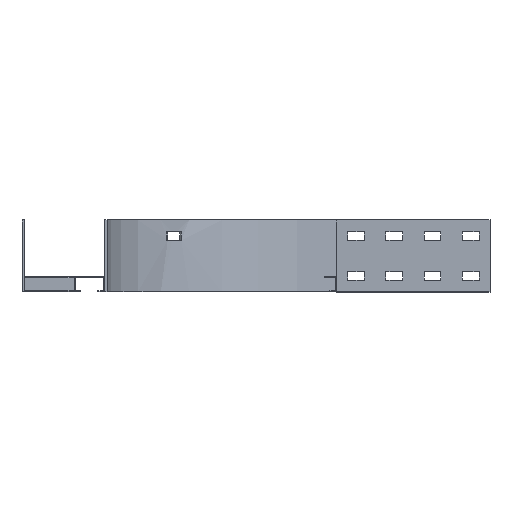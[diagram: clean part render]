
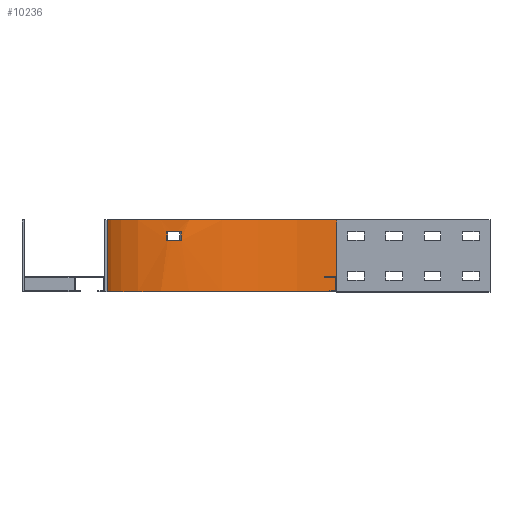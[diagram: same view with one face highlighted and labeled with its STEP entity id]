
A CAD part, left-side view. The second image highlights one B-rep face of the part: STEP entity #10236.
In plain terms, the highlighted cylindrical face has radius 300 mm (diameter 600 mm), a partial arc.
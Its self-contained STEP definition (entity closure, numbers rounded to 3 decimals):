
#271=FACE_BOUND('',#1423,.T.);
#449=CYLINDRICAL_SURFACE('',#10789,300.);
#492=CIRCLE('',#10788,300.);
#493=CIRCLE('',#10790,300.);
#494=CIRCLE('',#10791,300.);
#495=CIRCLE('',#10792,300.);
#892=FACE_OUTER_BOUND('',#1422,.T.);
#1422=EDGE_LOOP('',(#6925,#6926,#6927,#6928));
#1423=EDGE_LOOP('',(#6929,#6930,#6931,#6932));
#2130=LINE('',#14301,#3246);
#2136=LINE('',#14313,#3252);
#2137=LINE('',#14323,#3253);
#2138=LINE('',#14326,#3254);
#3246=VECTOR('',#11612,304.8);
#3252=VECTOR('',#11620,304.8);
#3253=VECTOR('',#11633,304.8);
#3254=VECTOR('',#11636,304.8);
#4362=VERTEX_POINT('',#14298);
#4363=VERTEX_POINT('',#14300);
#4365=VERTEX_POINT('',#14306);
#4368=VERTEX_POINT('',#14311);
#4369=VERTEX_POINT('',#14319);
#4370=VERTEX_POINT('',#14320);
#4371=VERTEX_POINT('',#14322);
#4372=VERTEX_POINT('',#14324);
#5378=EDGE_CURVE('',#4362,#4363,#2130,.T.);
#5384=EDGE_CURVE('',#4368,#4365,#2136,.T.);
#5386=EDGE_CURVE('',#4365,#4362,#492,.T.);
#5387=EDGE_CURVE('',#4368,#4363,#493,.T.);
#5388=EDGE_CURVE('',#4369,#4370,#494,.T.);
#5389=EDGE_CURVE('',#4370,#4371,#2137,.T.);
#5390=EDGE_CURVE('',#4371,#4372,#495,.T.);
#5391=EDGE_CURVE('',#4372,#4369,#2138,.T.);
#6925=ORIENTED_EDGE('',*,*,#5378,.F.);
#6926=ORIENTED_EDGE('',*,*,#5386,.F.);
#6927=ORIENTED_EDGE('',*,*,#5384,.F.);
#6928=ORIENTED_EDGE('',*,*,#5387,.T.);
#6929=ORIENTED_EDGE('',*,*,#5388,.T.);
#6930=ORIENTED_EDGE('',*,*,#5389,.T.);
#6931=ORIENTED_EDGE('',*,*,#5390,.T.);
#6932=ORIENTED_EDGE('',*,*,#5391,.T.);
#10236=ADVANCED_FACE('',(#892,#271),#449,.F.);
#10788=AXIS2_PLACEMENT_3D('',#14316,#11625,#11626);
#10789=AXIS2_PLACEMENT_3D('',#14317,#11627,#11628);
#10790=AXIS2_PLACEMENT_3D('',#14318,#11629,#11630);
#10791=AXIS2_PLACEMENT_3D('',#14321,#11631,#11632);
#10792=AXIS2_PLACEMENT_3D('',#14325,#11634,#11635);
#11612=DIRECTION('',(0.,0.,-1.));
#11620=DIRECTION('',(0.,0.,1.));
#11625=DIRECTION('center_axis',(0.,0.,-1.));
#11626=DIRECTION('ref_axis',(1.,0.,0.));
#11627=DIRECTION('center_axis',(0.,0.,1.));
#11628=DIRECTION('ref_axis',(1.,0.,0.));
#11629=DIRECTION('center_axis',(0.,0.,-1.));
#11630=DIRECTION('ref_axis',(1.,0.,0.));
#11631=DIRECTION('center_axis',(0.,0.,-1.));
#11632=DIRECTION('ref_axis',(1.,0.,0.));
#11633=DIRECTION('',(0.,0.,-1.));
#11634=DIRECTION('center_axis',(0.,0.,1.));
#11635=DIRECTION('ref_axis',(1.,0.,0.));
#11636=DIRECTION('',(0.,0.,1.));
#14298=CARTESIAN_POINT('',(-55.5,-355.5,47.));
#14300=CARTESIAN_POINT('',(-55.5,-355.5,-47.));
#14301=CARTESIAN_POINT('',(-55.5,-355.5,47.));
#14306=CARTESIAN_POINT('',(-355.5,-55.5,47.));
#14311=CARTESIAN_POINT('',(-355.5,-55.5,-47.));
#14313=CARTESIAN_POINT('',(-355.5,-55.5,-47.));
#14316=CARTESIAN_POINT('Origin',(-355.5,-355.5,47.));
#14317=CARTESIAN_POINT('Origin',(-355.5,-355.5,0.));
#14318=CARTESIAN_POINT('Origin',(-355.5,-355.5,-47.));
#14319=CARTESIAN_POINT('',(-152.279,-134.816,31.5));
#14320=CARTESIAN_POINT('',(-134.611,-152.503,31.5));
#14321=CARTESIAN_POINT('Origin',(-355.5,-355.5,31.5));
#14322=CARTESIAN_POINT('',(-134.611,-152.503,20.5));
#14323=CARTESIAN_POINT('',(-134.611,-152.503,31.5));
#14324=CARTESIAN_POINT('',(-152.279,-134.816,20.5));
#14325=CARTESIAN_POINT('Origin',(-355.5,-355.5,20.5));
#14326=CARTESIAN_POINT('',(-152.279,-134.816,20.5));
